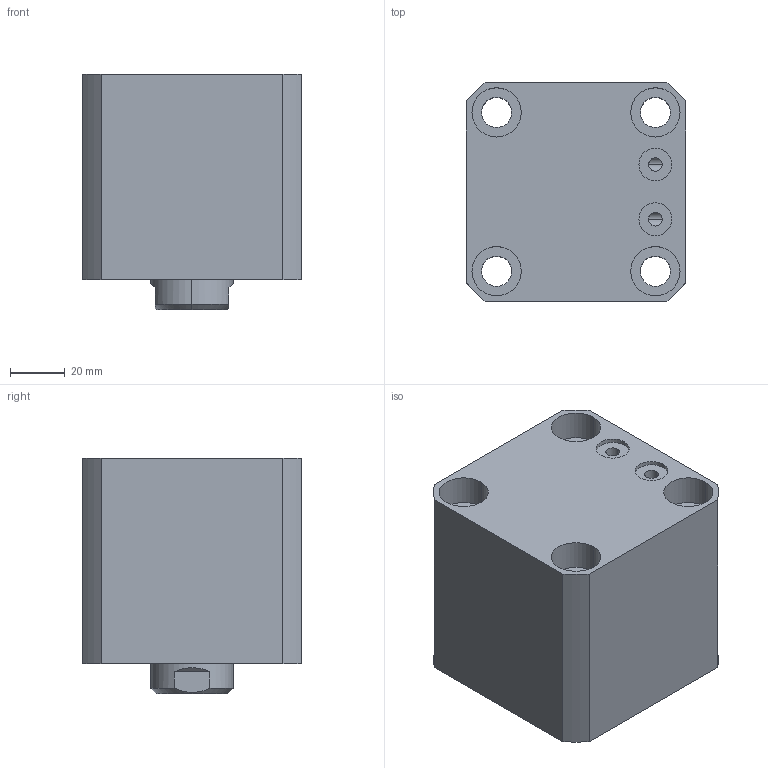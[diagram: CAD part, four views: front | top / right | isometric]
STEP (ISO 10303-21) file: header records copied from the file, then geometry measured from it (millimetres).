
FILE_DESCRIPTION (( 'STEP AP203' ), '1' );
FILE_NAME ('CHTB-SDMA50-15N.STEP', '2018-05-19T03:33:45', ( '' ), ( '' ), 'SwSTEP 2.0', 'SolidWorks 2015', '' );
FILE_SCHEMA (( 'CONFIG_CONTROL_DESIGN' ));
Length unit declared in the file: millimetre
Products named in the file (5): CHTM-SDMA50QG; 掛极SDMB50-15N; CHTB-SDMA50-15N; M6; 活塞杆SDMB50-15N
Assembly tree (5 placements, depth 2):
  CHTB-SDMA50-15N
    掛极SDMB50-15N
    活塞杆SDMB50-15N
    CHTM-SDMA50QG
    M6  x2
Bounding box: 80 x 80 x 86 mm (x, y, z)
Volume: 404850.6 mm3; surface area: 89967.2 mm2
Topology: 5 solids, 5 shells, 263 faces, 693 edges, 458 vertices
Faces by surface type: cylinder 135, plane 55, cone 31, bspline 26, torus 16
Entity records: 13963 total; most frequent: CARTESIAN_POINT 8102, ORIENTED_EDGE 1188, DIRECTION 1016, EDGE_CURVE 594, AXIS2_PLACEMENT_3D 416, VERTEX_POINT 397, EDGE_LOOP 269, ADVANCED_FACE 228
